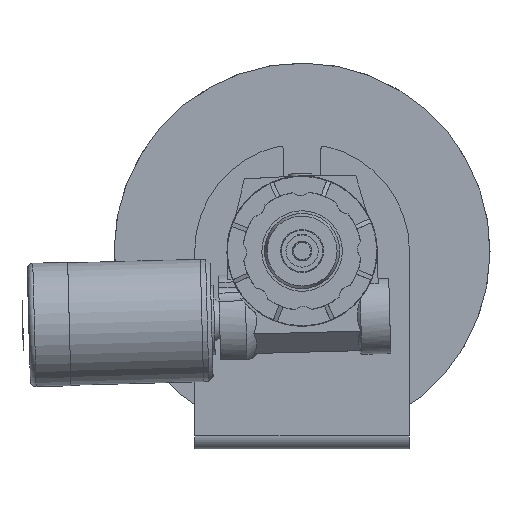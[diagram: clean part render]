
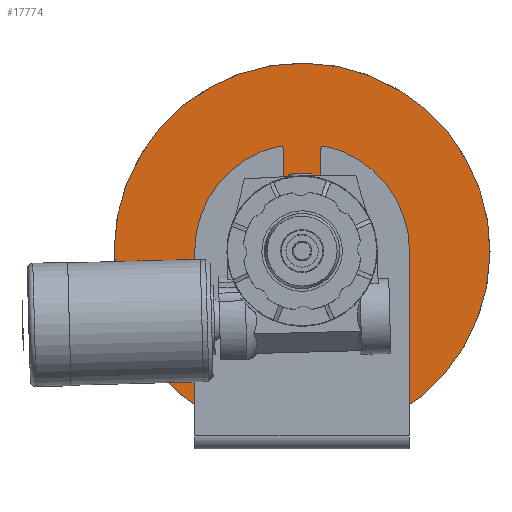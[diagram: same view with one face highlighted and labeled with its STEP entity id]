
A CAD part, left-side view. The second image highlights one B-rep face of the part: STEP entity #17774.
In plain terms, the highlighted planar face has unit normal (-1, 0, 0).
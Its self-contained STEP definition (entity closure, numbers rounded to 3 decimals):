
#355=FACE_BOUND('',#2908,.T.);
#863=PLANE('',#19985);
#1838=FACE_OUTER_BOUND('',#2907,.T.);
#2907=EDGE_LOOP('',(#16232));
#2908=EDGE_LOOP('',(#16233));
#4152=CIRCLE('',#19986,175.);
#4153=CIRCLE('',#19987,21.);
#8420=VERTEX_POINT('',#31656);
#8421=VERTEX_POINT('',#31658);
#11047=EDGE_CURVE('',#8420,#8420,#4152,.T.);
#11048=EDGE_CURVE('',#8421,#8421,#4153,.T.);
#16232=ORIENTED_EDGE('',*,*,#11047,.F.);
#16233=ORIENTED_EDGE('',*,*,#11048,.F.);
#17774=ADVANCED_FACE('',(#1838,#355),#863,.F.);
#19985=AXIS2_PLACEMENT_3D('',#31655,#25596,#25597);
#19986=AXIS2_PLACEMENT_3D('',#31657,#25598,#25599);
#19987=AXIS2_PLACEMENT_3D('',#31659,#25600,#25601);
#25596=DIRECTION('center_axis',(1.,0.,0.));
#25597=DIRECTION('ref_axis',(0.,0.988,-0.156));
#25598=DIRECTION('center_axis',(1.,0.,0.));
#25599=DIRECTION('ref_axis',(0.,0.988,-0.156));
#25600=DIRECTION('center_axis',(-1.,0.,0.));
#25601=DIRECTION('ref_axis',(0.,0.,
1.));
#31655=CARTESIAN_POINT('Origin',(-142.876,0.,
184.214));
#31656=CARTESIAN_POINT('',(-142.876,-172.864,211.476));
#31657=CARTESIAN_POINT('Origin',(-142.876,0.,
184.214));
#31658=CARTESIAN_POINT('',(-142.876,0.,163.214));
#31659=CARTESIAN_POINT('Origin',(-142.876,0.,
184.214));
